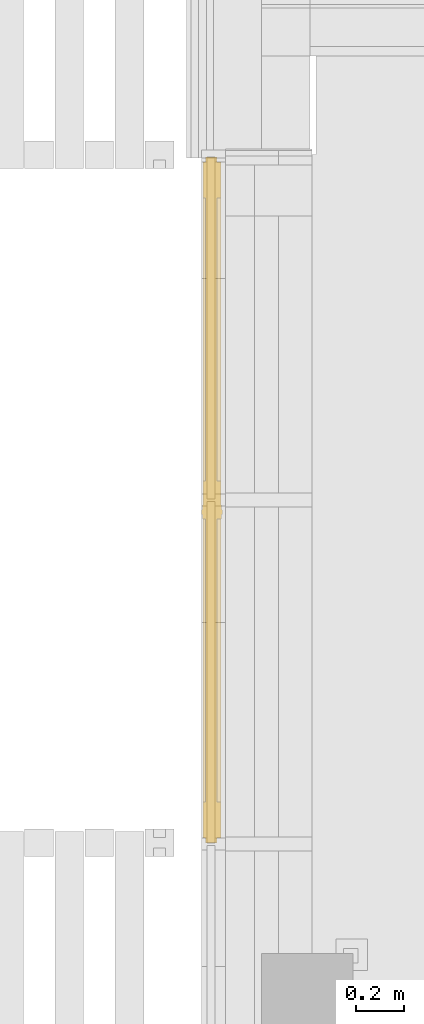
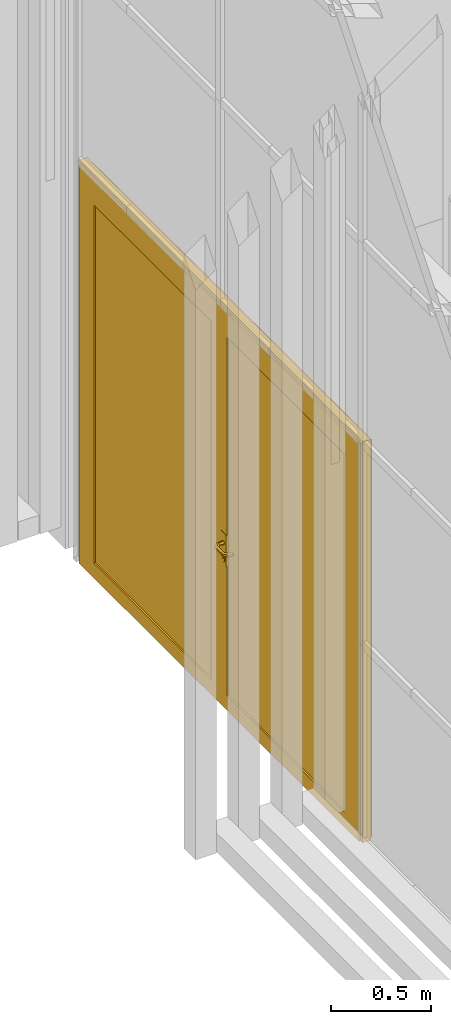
# One storey, part 241 of 260: 1 door, 1 element without a shape of its own.
"""IFC2X3 building model written with IfcOpenShell, lengths in millimetres."""

from ifc_helpers import new_model, entity, si_unit, converted_unit, derived_unit, money_unit, direction, frame, origin_with_axes, place, context, subcontext, project, spatial, open_shell, faceted_brep, surface_model, material, material_list, type_object, element, aggregate, save


model = new_model("IFC2X3")

# Units and contexts
model_context = context("Model", 3, precision=0.01, world=origin_with_axes(), true_north=direction((0.0, 1.0)))
body_context = subcontext(model_context, "Body", "Model", "MODEL_VIEW")
ifc_project = project(units=[si_unit("LENGTHUNIT", "METRE", prefix="MILLI"), si_unit("AREAUNIT", "SQUARE_METRE"), si_unit("VOLUMEUNIT", "CUBIC_METRE"), converted_unit("PLANEANGLEUNIT", "DEGREE", entity("IfcPlaneAngleMeasure", 0.0174532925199), si_unit("PLANEANGLEUNIT", "RADIAN"), dimensions=[0, 0, 0, 0, 0, 0, 0]), money_unit("EUR"), converted_unit("TIMEUNIT", "Year", entity("IfcTimeMeasure", 31556926.0), si_unit("TIMEUNIT", "SECOND"), dimensions=[0, 0, 1, 0, 0, 0, 0]), si_unit("MASSUNIT", "GRAM", prefix="KILO"), si_unit("THERMODYNAMICTEMPERATUREUNIT", "DEGREE_CELSIUS"), si_unit("LUMINOUSINTENSITYUNIT", "LUMEN"), si_unit("ENERGYUNIT", "JOULE", prefix="MEGA"), derived_unit("THERMALCONDUCTANCEUNIT", [(si_unit("POWERUNIT", "WATT"), 1), (si_unit("LENGTHUNIT", "METRE"), -1), (si_unit("THERMODYNAMICTEMPERATUREUNIT", "KELVIN"), -1)]), derived_unit("SPECIFICHEATCAPACITYUNIT", [(si_unit("ENERGYUNIT", "JOULE"), 1), (si_unit("MASSUNIT", "GRAM", prefix="KILO"), -1), (si_unit("THERMODYNAMICTEMPERATUREUNIT", "KELVIN"), -1)]), derived_unit("MASSDENSITYUNIT", [(si_unit("MASSUNIT", "GRAM", prefix="KILO"), 1), (si_unit("VOLUMEUNIT", "CUBIC_METRE"), -1)])], contexts=[model_context])

# Site, building, storey
site_placement = place(None, origin_with_axes())
site = spatial("IfcSite", under=ifc_project, at=site_placement, Name="Kolde pst 67a", CompositionType="ELEMENT")
building_placement = place(site_placement, origin_with_axes())
building = spatial("IfcBuilding", under=site, at=building_placement, Name="Riigigümnaasium", CompositionType="ELEMENT")
storey_placement = place(building_placement, origin_with_axes())
storey = spatial("IfcBuildingStorey", under=building, at=storey_placement, Name="1. korrus", CompositionType="ELEMENT", Elevation=0.0)

# Curtain wall, door
curtain_wall_type = type_object("IfcCurtainWallType", Name="Curtain Wall Type", PredefinedType="NOTDEFINED")
curtain_wall_placement = place(storey_placement, frame((47829.9854655, 8727.77020058, -0.000749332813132), z_axis=(0.0, 0.0, 1.0), x_axis=(1.0, 0.0, 0.0)))
curtain_wall = element("IfcCurtainWall", 1, at=curtain_wall_placement, inside=storey, type_object=curtain_wall_type, Name="KLAASFASSAAD")
ifc_material_1 = material(Name="_METALL - alumiinium")
ifc_material_2 = material(Name="_KLAAS - kirgas")
ifc_material_3 = material(Name="_METALL - teras")
ifc_material_list = material_list([ifc_material_1, ifc_material_2, ifc_material_3])
door_style = type_object("IfcDoorStyle", Name="915 x 1225 x 48", ConstructionType="NOTDEFINED", OperationType="DOUBLE_DOOR_SINGLE_SWING", ParameterTakesPrecedence=False, Sizeable=False)
door_placement = place(curtain_wall_placement, frame((-23999.8856673, 27980.5086689, 1230.00044752), z_axis=(0.0, 0.0, 1.0), x_axis=(7.64768489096e-06, 0.999999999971, 0.0)))
door = element("IfcDoor", 2, at=door_placement, type_object=door_style, material=ifc_material_list, Name="Kahepoolne välisuks", ObjectType="DOOR", OverallHeight=2435.0, OverallWidth=2810.45, context=body_context, shape_type="SurfaceModel", body=[
    surface_model("IfcShellBasedSurfaceModel", [(1212.21925805, -41.0, -1230.00042253), (1212.21925805, -41.0, 1105.00028516), (1112.21925805, -41.0, 1105.00028516), (1112.21925805, -41.0, -1230.00042253)], [open_shell([[[0, 1, 2, 3]]])]),
    surface_model("IfcShellBasedSurfaceModel", [(-1598.23444846, -41.0, 1205.00028516), (-1598.23444846, -41.0, 1105.00028516), (1212.21925805, -41.0, 1105.00028516), (1212.21925805, -41.0, 1205.00028516)], [open_shell([[[0, 1, 2, 3]]])]),
    surface_model("IfcShellBasedSurfaceModel", [(-1598.23444846, -41.0, -1230.00042253), (-1498.23444846, -41.0, -1230.00042253), (-1498.23444846, -41.0, 1105.00028516), (-1598.23444846, -41.0, 1105.00028516)], [open_shell([[[0, 1, 2, 3]]])]),
    faceted_brep([(1212.21925805, -41.0, -1230.00042253), (1212.21925805, 34.0, -1230.00042253), (1212.21925805, 34.0, 1135.00028516), (1212.21925805, -41.0, 1135.00028516), (1142.21925805, -41.0, -1230.00042253), (1142.21925805, 34.0, -1230.00042253), (1142.21925805, 34.0, 1135.00028516), (1142.21925805, -41.0, 1135.00028516)], [[[0, 1, 2, 3]], [[4, 5, 1, 0]], [[1, 5, 6, 2]], [[3, 2, 6, 7]], [[0, 3, 7, 4]], [[7, 6, 5, 4]]]),
    faceted_brep([(-1598.23444846, -41.0, 1205.00028516), (-1598.23444846, 34.0, 1205.00028516), (-1598.23444846, 34.0, 1135.00028516), (-1598.23444846, -41.0, 1135.00028516), (1212.21925805, -41.0, 1205.00028516), (1212.21925805, 34.0, 1205.00028516), (1212.21925805, 34.0, 1135.00028516), (1212.21925805, -41.0, 1135.00028516)], [[[0, 1, 2, 3]], [[4, 5, 1, 0]], [[1, 5, 6, 2]], [[3, 2, 6, 7]], [[0, 3, 7, 4]], [[7, 6, 5, 4]]]),
    faceted_brep([(-1598.23444846, -41.0, -1230.00042253), (-1598.23444846, 34.0, -1230.00042253), (-1528.23444846, 34.0, -1230.00042253), (-1528.23444846, -41.0, -1230.00042253), (-1598.23444846, -41.0, 1135.00028516), (-1598.23444846, 34.0, 1135.00028516), (-1528.23444846, 34.0, 1135.00028516), (-1528.23444846, -41.0, 1135.00028516)], [[[0, 1, 2, 3]], [[4, 5, 1, 0]], [[1, 5, 6, 2]], [[3, 2, 6, 7]], [[0, 3, 7, 4]], [[7, 6, 5, 4]]]),
    faceted_brep([(1142.21925805, -41.0, -1230.00042253), (1142.21925805, 34.0, -1230.00042253), (1142.21925805, 34.0, -1220.00042253), (1142.21925805, -41.0, -1220.00042253), (-1528.23444846, -41.0, -1230.00042253), (-1528.23444846, 34.0, -1230.00042253), (-1528.23444846, 34.0, -1220.00042253), (-1528.23444846, -41.0, -1220.00042253)], [[[0, 1, 2, 3]], [[4, 5, 1, 0]], [[1, 5, 6, 2]], [[3, 2, 6, 7]], [[0, 3, 7, 4]], [[7, 6, 5, 4]]]),
    faceted_brep([(1232.21923667, -24.0, -1230.00042253), (1232.21923667, 24.0, -1230.00042253), (1232.21923667, 24.0, 1225.00030678), (1232.21923667, -24.0, 1225.00030678), (1212.21925805, -24.0, -1230.00042253), (1212.21925805, 24.0, -1230.00042253), (1212.21925805, 24.0, 1205.00028516), (1212.21925805, -24.0, 1205.00028516)], [[[0, 1, 2, 3]], [[4, 5, 1, 0]], [[1, 5, 6, 2]], [[3, 2, 6, 7]], [[0, 3, 7, 4]], [[7, 6, 5, 4]]]),
    faceted_brep([(1232.21923667, -24.0, 1225.00030678), (1232.21923667, 24.0, 1225.00030678), (-1618.23447008, 24.0, 1225.00030678), (-1618.23447008, -24.0, 1225.00030678), (1212.21925805, -24.0, 1205.00028516), (1212.21925805, 24.0, 1205.00028516), (-1598.23444846, 24.0, 1205.00028516), (-1598.23444846, -24.0, 1205.00028516)], [[[0, 1, 2, 3]], [[4, 5, 1, 0]], [[1, 5, 6, 2]], [[3, 2, 6, 7]], [[0, 3, 7, 4]], [[7, 6, 5, 4]]]),
    faceted_brep([(-1618.23447008, -24.0, 1225.00030678), (-1618.23447008, 24.0, 1225.00030678), (-1618.23447008, 24.0, -1230.00042253), (-1618.23447008, -24.0, -1230.00042253), (-1598.23444846, -24.0, 1205.00028516), (-1598.23444846, 24.0, 1205.00028516), (-1598.23444846, 24.0, -1230.00042253), (-1598.23444846, -24.0, -1230.00042253)], [[[0, 1, 2, 3]], [[4, 5, 1, 0]], [[1, 5, 6, 2]], [[3, 2, 6, 7]], [[0, 3, 7, 4]], [[7, 6, 5, 4]]]),
    faceted_brep([(-1448.23444846, -41.0, -1140.00042253), (-1448.23444846, 34.0, -1140.00042253), (-1448.23444846, 34.0, 1055.00028516), (-1448.23444846, -41.0, 1055.00028516), (-1528.23444846, -41.0, -1140.00042253), (-1528.23444846, 34.0, -1140.00042253), (-1528.23444846, 34.0, 1055.00028516), (-1528.23444846, -41.0, 1055.00028516)], [[[0, 1, 2, 3]], [[4, 5, 1, 0]], [[1, 5, 6, 2]], [[3, 2, 6, 7]], [[0, 3, 7, 4]], [[7, 6, 5, 4]]]),
    faceted_brep([(-193.007595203, -41.0, -1140.00042253), (-193.007595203, 34.0, -1140.00042253), (-193.007595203, 34.0, 1055.00028516), (-193.007595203, -41.0, 1055.00028516), (-273.007595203, -41.0, -1140.00042253), (-273.007595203, 34.0, -1140.00042253), (-273.007595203, 34.0, 1055.00028516), (-273.007595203, -41.0, 1055.00028516)], [[[0, 1, 2, 3]], [[4, 5, 1, 0]], [[1, 5, 6, 2]], [[3, 2, 6, 7]], [[0, 3, 7, 4]], [[7, 6, 5, 4]]]),
    faceted_brep([(-193.007595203, -41.0, -1220.00042253), (-193.007595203, 34.0, -1220.00042253), (-193.007595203, 34.0, -1140.00042253), (-193.007595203, -41.0, -1140.00042253), (-1528.23444846, -41.0, -1220.00042253), (-1528.23444846, 34.0, -1220.00042253), (-1528.23444846, 34.0, -1140.00042253), (-1448.23444846, 34.0, -1140.00042253), (-273.007595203, 34.0, -1140.00042253), (-273.007595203, -41.0, -1140.00042253), (-1448.23444846, -41.0, -1140.00042253), (-1528.23444846, -41.0, -1140.00042253)], [[[0, 1, 2, 3]], [[4, 5, 1, 0]], [[1, 5, 6, 7, 8, 2]], [[3, 2, 8, 9]], [[0, 3, 9, 10, 11, 4]], [[11, 6, 5, 4]], [[10, 7, 6, 11]], [[9, 8, 7, 10]]]),
    surface_model("IfcShellBasedSurfaceModel", [(-1528.23444846, -41.0, 1135.00028516), (-1528.23444846, 34.0, 1135.00028516), (-1528.23444846, 34.0, 1055.00028516), (-1528.23444846, -41.0, 1055.00028516), (-193.007595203, -41.0, 1135.00028516), (-193.007595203, 34.0, 1135.00028516), (-193.007595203, 34.0, 1055.00028516), (-273.007595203, 34.0, 1055.00028516), (-1448.23444846, 34.0, 1055.00028516), (-1448.23444846, -41.0, 1055.00028516), (-273.007595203, -41.0, 1055.00028516), (-193.007595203, -41.0, 1055.00028516)], [open_shell([[[0, 1, 2, 3]], [[4, 5, 1, 0]], [[1, 5, 6, 7, 8, 2]], [[3, 2, 8, 9]], [[0, 3, 9, 10, 11, 4]], [[10, 7, 6, 11]], [[9, 8, 7, 10]]])]),
    faceted_brep([(-1448.23444846, -24.0, -1140.00042253), (-1448.23444846, 24.0, -1140.00042253), (-273.007595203, 24.0, -1140.00042253), (-273.007595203, -24.0, -1140.00042253), (-1448.23444846, -24.0, 1055.00028516), (-1448.23444846, 24.0, 1055.00028516), (-273.007595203, 24.0, 1055.00028516), (-273.007595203, -24.0, 1055.00028516)], [[[0, 1, 2, 3]], [[4, 5, 1, 0]], [[1, 5, 6, 2]], [[3, 2, 6, 7]], [[0, 3, 7, 4]], [[7, 6, 5, 4]]]),
    faceted_brep([(-214.507595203, 34.0, -160.000422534), (-214.507595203, 37.0, -160.000422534), (-271.507595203, 37.0, -160.000422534), (-271.507595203, 34.0, -160.000422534), (-214.507595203, 34.0, -350.000422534), (-214.507595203, 37.0, -350.000422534), (-271.507595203, 37.0, -350.000422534), (-271.507595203, 34.0, -350.000422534)], [[[0, 1, 2, 3]], [[4, 5, 1, 0]], [[1, 5, 6, 2]], [[3, 2, 6, 7]], [[0, 3, 7, 4]], [[7, 6, 5, 4]]]),
    faceted_brep([(-246.715799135, 47.0, -231.413100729), (-247.02481613, 37.0, -232.364157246), (-256.007595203, 37.0, -220.000422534), (-255.007595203, 47.0, -220.000422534), (-233.29939127, 47.0, -227.053845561), (-232.490374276, 37.0, -227.641630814), (-232.490374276, 37.0, -212.359214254), (-247.02481613, 37.0, -207.636687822), (-246.715799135, 47.0, -208.587744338), (-233.29939127, 47.0, -212.946999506)], [[[0, 1, 2, 3]], [[4, 5, 1, 0]], [[2, 1, 5, 6, 7]], [[3, 2, 7, 8]], [[3, 8, 9, 4, 0]], [[9, 6, 5, 4]], [[8, 7, 6, 9]]]),
    faceted_brep([(-249.18793509, 41.0, -334.02155286), (-249.805969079, 37.0, -335.923665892), (-265.007595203, 37.0, -315.000422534), (-263.007595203, 41.0, -315.000422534), (-226.827255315, 41.0, -326.75612758), (-225.209221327, 37.0, -327.931698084), (-225.209221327, 37.0, -302.069146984), (-249.805969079, 37.0, -294.077179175), (-249.18793509, 41.0, -295.979292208), (-226.827255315, 41.0, -303.244717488)], [[[0, 1, 2, 3]], [[4, 5, 1, 0]], [[2, 1, 5, 6, 7]], [[3, 2, 7, 8]], [[3, 8, 9, 4, 0]], [[9, 6, 5, 4]], [[8, 7, 6, 9]]]),
    faceted_brep([(-245.170714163, 43.0, -312.657818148), (-245.479731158, 41.0, -313.608874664), (-251.007595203, 41.0, -306.000422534), (-250.007595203, 43.0, -306.000422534), (-237.344476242, 43.0, -310.1149193), (-236.535459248, 41.0, -310.702704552), (-236.535459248, 41.0, -301.298140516), (-245.479731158, 41.0, -298.391970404), (-245.170714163, 43.0, -299.34302692), (-237.344476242, 43.0, -301.885925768)], [[[0, 1, 2, 3]], [[4, 5, 1, 0]], [[2, 1, 5, 6, 7]], [[3, 2, 7, 8]], [[3, 8, 9, 4, 0]], [[9, 6, 5, 4]], [[8, 7, 6, 9]]]),
    surface_model("IfcShellBasedSurfaceModel", [(-253.007595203, 47.0, -220.000422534), (-253.007595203, 62.8578643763, -220.000422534), (-246.097765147, 65.7200096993, -229.510987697), (-246.097765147, 47.0, -229.510987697), (-246.097765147, 47.0, -210.489857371), (-246.097765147, 65.7200096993, -210.489857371), (-267.149730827, 77.0, -220.000422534), (-264.287585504, 83.9098300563, -229.510987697), (-234.917425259, 70.3510581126, -225.878275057), (-234.917425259, 47.0, -225.878275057), (-234.917425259, 47.0, -214.122570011), (-234.917425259, 70.3510581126, -214.122570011), (-264.287585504, 83.9098300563, -210.489857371), (-328.865459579, 77.0, -220.000422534), (-331.727604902, 83.9098300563, -229.510987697), (-259.65653709, 95.0901699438, -225.878275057), (-259.65653709, 95.0901699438, -214.122570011), (-331.727604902, 83.9098300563, -210.489857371), (-343.007595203, 62.8578643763, -220.000422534), (-349.917425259, 65.7200096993, -229.510987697), (-336.358653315, 95.0901699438, -225.878275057), (-336.358653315, 95.0901699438, -214.122570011), (-349.917425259, 65.7200096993, -210.489857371), (-343.007595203, 47.0, -220.000422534), (-349.917425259, 47.0, -229.510987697), (-361.097765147, 70.3510581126, -225.878275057), (-361.097765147, 70.3510581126, -214.122570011), (-349.917425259, 47.0, -210.489857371), (-361.097765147, 47.0, -214.122570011), (-361.097765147, 47.0, -225.878275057)], [open_shell([[[0, 1, 2, 3]], [[4, 5, 1, 0]], [[1, 6, 7, 2]], [[3, 2, 8, 9]], [[10, 11, 5, 4]], [[5, 12, 6, 1]], [[6, 13, 14, 7]], [[2, 7, 15, 8]], [[9, 8, 11, 10]], [[11, 16, 12, 5]], [[12, 17, 13, 6]], [[13, 18, 19, 14]], [[7, 14, 20, 15]], [[8, 15, 16, 11]], [[16, 21, 17, 12]], [[17, 22, 18, 13]], [[18, 23, 24, 19]], [[14, 19, 25, 20]], [[15, 20, 21, 16]], [[21, 26, 22, 17]], [[22, 27, 23, 18]], [[23, 27, 28, 29, 24]], [[19, 24, 29, 25]], [[20, 25, 26, 21]], [[26, 28, 27, 22]], [[25, 29, 28, 26]]])]),
    faceted_brep([(-214.507595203, -41.0, -160.000422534), (-271.507595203, -41.0, -160.000422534), (-271.507595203, -44.0, -160.000422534), (-214.507595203, -44.0, -160.000422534), (-214.507595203, -41.0, -350.000422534), (-271.507595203, -41.0, -350.000422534), (-271.507595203, -44.0, -350.000422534), (-214.507595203, -44.0, -350.000422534)], [[[0, 1, 2, 3]], [[0, 4, 5, 1]], [[1, 5, 6, 2]], [[3, 2, 6, 7]], [[4, 0, 3, 7]], [[5, 4, 7, 6]]]),
    faceted_brep([(-246.715799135, -54.0, -231.413100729), (-255.007595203, -54.0, -220.000422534), (-256.007595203, -44.0, -220.000422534), (-247.02481613, -44.0, -232.364157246), (-233.29939127, -54.0, -227.053845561), (-233.29939127, -54.0, -212.946999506), (-246.715799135, -54.0, -208.587744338), (-247.02481613, -44.0, -207.636687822), (-232.490374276, -44.0, -212.359214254), (-232.490374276, -44.0, -227.641630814)], [[[0, 1, 2, 3]], [[1, 0, 4, 5, 6]], [[1, 6, 7, 2]], [[2, 7, 8, 9, 3]], [[4, 0, 3, 9]], [[5, 4, 9, 8]], [[6, 5, 8, 7]]]),
    faceted_brep([(-249.18793509, -48.0, -334.02155286), (-263.007595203, -48.0, -315.000422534), (-265.007595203, -44.0, -315.000422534), (-249.805969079, -44.0, -335.923665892), (-226.827255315, -48.0, -326.75612758), (-226.827255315, -48.0, -303.244717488), (-249.18793509, -48.0, -295.979292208), (-249.805969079, -44.0, -294.077179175), (-225.209221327, -44.0, -302.069146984), (-225.209221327, -44.0, -327.931698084)], [[[0, 1, 2, 3]], [[1, 0, 4, 5, 6]], [[1, 6, 7, 2]], [[2, 7, 8, 9, 3]], [[4, 0, 3, 9]], [[5, 4, 9, 8]], [[6, 5, 8, 7]]]),
    faceted_brep([(-245.170714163, -50.0, -312.657818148), (-250.007595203, -50.0, -306.000422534), (-251.007595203, -48.0, -306.000422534), (-245.479731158, -48.0, -313.608874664), (-237.344476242, -50.0, -310.1149193), (-237.344476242, -50.0, -301.885925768), (-245.170714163, -50.0, -299.34302692), (-245.479731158, -48.0, -298.391970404), (-236.535459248, -48.0, -301.298140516), (-236.535459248, -48.0, -310.702704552)], [[[0, 1, 2, 3]], [[1, 0, 4, 5, 6]], [[1, 6, 7, 2]], [[2, 7, 8, 9, 3]], [[4, 0, 3, 9]], [[5, 4, 9, 8]], [[6, 5, 8, 7]]]),
    surface_model("IfcShellBasedSurfaceModel", [(-253.007595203, -54.0, -220.000422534), (-246.097765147, -54.0, -229.510987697), (-246.097765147, -72.7200096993, -229.510987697), (-253.007595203, -69.8578643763, -220.000422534), (-234.917425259, -54.0, -225.878275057), (-234.917425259, -77.3510581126, -225.878275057), (-264.287585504, -90.9098300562, -229.510987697), (-267.149730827, -84.0, -220.000422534), (-246.097765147, -54.0, -210.489857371), (-246.097765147, -72.7200096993, -210.489857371), (-234.917425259, -54.0, -214.122570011), (-234.917425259, -77.3510581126, -214.122570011), (-259.65653709, -102.090169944, -225.878275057), (-331.727604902, -90.9098300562, -229.510987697), (-328.865459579, -84.0, -220.000422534), (-264.287585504, -90.9098300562, -210.489857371), (-259.65653709, -102.090169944, -214.122570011), (-336.358653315, -102.090169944, -225.878275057), (-349.917425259, -72.7200096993, -229.510987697), (-343.007595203, -69.8578643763, -220.000422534), (-331.727604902, -90.9098300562, -210.489857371), (-336.358653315, -102.090169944, -214.122570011), (-361.097765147, -77.3510581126, -225.878275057), (-349.917425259, -54.0, -229.510987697), (-343.007595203, -54.0, -220.000422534), (-349.917425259, -72.7200096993, -210.489857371), (-361.097765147, -77.3510581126, -214.122570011), (-361.097765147, -54.0, -225.878275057), (-361.097765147, -54.0, -214.122570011), (-349.917425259, -54.0, -210.489857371)], [open_shell([[[0, 1, 2, 3]], [[1, 4, 5, 2]], [[3, 2, 6, 7]], [[8, 0, 3, 9]], [[4, 10, 11, 5]], [[2, 5, 12, 6]], [[7, 6, 13, 14]], [[9, 3, 7, 15]], [[10, 8, 9, 11]], [[5, 11, 16, 12]], [[6, 12, 17, 13]], [[14, 13, 18, 19]], [[15, 7, 14, 20]], [[11, 9, 15, 16]], [[12, 16, 21, 17]], [[13, 17, 22, 18]], [[19, 18, 23, 24]], [[20, 14, 19, 25]], [[16, 15, 20, 21]], [[17, 21, 26, 22]], [[18, 22, 27, 23]], [[24, 23, 27, 28, 29]], [[25, 19, 24, 29]], [[21, 20, 25, 26]], [[22, 26, 28, 27]], [[26, 25, 29, 28]]])]),
    faceted_brep([(-113.007595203, -41.0, -1140.00042253), (-113.007595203, 34.0, -1140.00042253), (-113.007595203, 34.0, 1055.00028516), (-113.007595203, -41.0, 1055.00028516), (-193.007595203, -41.0, -1140.00042253), (-193.007595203, 34.0, -1140.00042253), (-193.007595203, 34.0, 1055.00028516), (-193.007595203, -41.0, 1055.00028516)], [[[0, 1, 2, 3]], [[4, 5, 1, 0]], [[1, 5, 6, 2]], [[3, 2, 6, 7]], [[0, 3, 7, 4]], [[7, 6, 5, 4]]]),
    faceted_brep([(1142.21925805, -41.0, -1140.00042253), (1142.21925805, 34.0, -1140.00042253), (1142.21925805, 34.0, 1055.00028516), (1142.21925805, -41.0, 1055.00028516), (1062.21925805, -41.0, -1140.00042253), (1062.21925805, 34.0, -1140.00042253), (1062.21925805, 34.0, 1055.00028516), (1062.21925805, -41.0, 1055.00028516)], [[[0, 1, 2, 3]], [[4, 5, 1, 0]], [[1, 5, 6, 2]], [[3, 2, 6, 7]], [[0, 3, 7, 4]], [[7, 6, 5, 4]]]),
    faceted_brep([(1142.21925805, -41.0, -1220.00042253), (1142.21925805, 34.0, -1220.00042253), (1142.21925805, 34.0, -1140.00042253), (1142.21925805, -41.0, -1140.00042253), (-193.007595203, -41.0, -1220.00042253), (-193.007595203, 34.0, -1220.00042253), (-193.007595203, 34.0, -1140.00042253), (-113.007595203, 34.0, -1140.00042253), (1062.21925805, 34.0, -1140.00042253), (1062.21925805, -41.0, -1140.00042253), (-113.007595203, -41.0, -1140.00042253), (-193.007595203, -41.0, -1140.00042253)], [[[0, 1, 2, 3]], [[4, 5, 1, 0]], [[1, 5, 6, 7, 8, 2]], [[3, 2, 8, 9]], [[0, 3, 9, 10, 11, 4]], [[11, 6, 5, 4]], [[10, 7, 6, 11]], [[9, 8, 7, 10]]]),
    surface_model("IfcShellBasedSurfaceModel", [(-193.007595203, -41.0, 1135.00028516), (-193.007595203, 34.0, 1135.00028516), (-193.007595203, 34.0, 1055.00028516), (-193.007595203, -41.0, 1055.00028516), (1142.21925805, -41.0, 1135.00028516), (1142.21925805, 34.0, 1135.00028516), (1142.21925805, 34.0, 1055.00028516), (1062.21925805, 34.0, 1055.00028516), (-113.007595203, 34.0, 1055.00028516), (-113.007595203, -41.0, 1055.00028516), (1062.21925805, -41.0, 1055.00028516), (1142.21925805, -41.0, 1055.00028516)], [open_shell([[[0, 1, 2, 3]], [[4, 5, 1, 0]], [[1, 5, 6, 7, 8, 2]], [[3, 2, 8, 9]], [[0, 3, 9, 10, 11, 4]], [[10, 7, 6, 11]], [[9, 8, 7, 10]]])]),
    faceted_brep([(-113.007595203, -24.0, -1140.00042253), (-113.007595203, 24.0, -1140.00042253), (1062.21925805, 24.0, -1140.00042253), (1062.21925805, -24.0, -1140.00042253), (-113.007595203, -24.0, 1055.00028516), (-113.007595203, 24.0, 1055.00028516), (1062.21925805, 24.0, 1055.00028516), (1062.21925805, -24.0, 1055.00028516)], [[[0, 1, 2, 3]], [[4, 5, 1, 0]], [[1, 5, 6, 2]], [[3, 2, 6, 7]], [[0, 3, 7, 4]], [[7, 6, 5, 4]]]),
])
aggregate(curtain_wall, [door])

save(model, "model.ifc")
